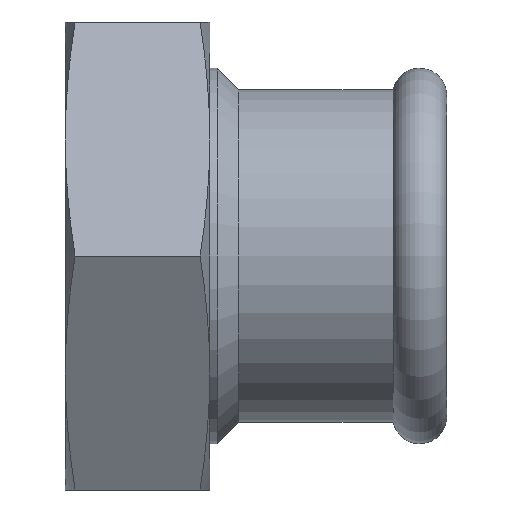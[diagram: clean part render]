
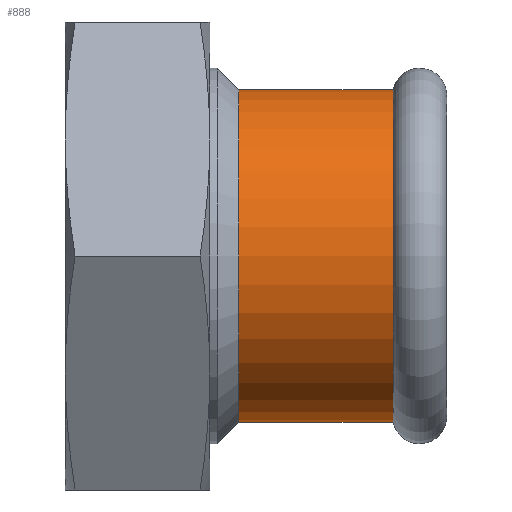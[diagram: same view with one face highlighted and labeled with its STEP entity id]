
A CAD part, front view. The second image highlights one B-rep face of the part: STEP entity #888.
In plain terms, the highlighted cylindrical face has radius 28.75 mm (diameter 57.5 mm), a full revolution.
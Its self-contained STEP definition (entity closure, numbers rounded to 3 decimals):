
#102=LINE('',#1657,#127);
#127=VECTOR('',#1324,28.75);
#139=CYLINDRICAL_SURFACE('',#1038,28.75);
#187=FACE_OUTER_BOUND('',#244,.T.);
#244=EDGE_LOOP('',(#799,#800,#801,#802,#803,#804,#805,#806));
#254=CIRCLE('',#916,28.75);
#255=CIRCLE('',#917,28.75);
#259=CIRCLE('',#921,28.75);
#309=CIRCLE('',#1005,28.75);
#310=CIRCLE('',#1006,28.75);
#311=CIRCLE('',#1007,28.75);
#340=VERTEX_POINT('',#1358);
#341=VERTEX_POINT('',#1359);
#342=VERTEX_POINT('',#1361);
#403=VERTEX_POINT('',#1597);
#404=VERTEX_POINT('',#1599);
#405=VERTEX_POINT('',#1601);
#431=EDGE_CURVE('',#340,#341,#254,.T.);
#432=EDGE_CURVE('',#341,#342,#255,.T.);
#436=EDGE_CURVE('',#342,#340,#259,.T.);
#526=EDGE_CURVE('',#404,#403,#309,.T.);
#527=EDGE_CURVE('',#405,#404,#310,.T.);
#528=EDGE_CURVE('',#403,#405,#311,.T.);
#554=EDGE_CURVE('',#341,#404,#102,.T.);
#799=ORIENTED_EDGE('',*,*,#431,.F.);
#800=ORIENTED_EDGE('',*,*,#436,.F.);
#801=ORIENTED_EDGE('',*,*,#432,.F.);
#802=ORIENTED_EDGE('',*,*,#554,.T.);
#803=ORIENTED_EDGE('',*,*,#526,.T.);
#804=ORIENTED_EDGE('',*,*,#528,.T.);
#805=ORIENTED_EDGE('',*,*,#527,.T.);
#806=ORIENTED_EDGE('',*,*,#554,.F.);
#888=ADVANCED_FACE('',(#187),#139,.T.);
#916=AXIS2_PLACEMENT_3D('',#1360,#1057,#1058);
#917=AXIS2_PLACEMENT_3D('',#1362,#1059,#1060);
#921=AXIS2_PLACEMENT_3D('',#1368,#1067,#1068);
#1005=AXIS2_PLACEMENT_3D('',#1600,#1251,#1252);
#1006=AXIS2_PLACEMENT_3D('',#1602,#1253,#1254);
#1007=AXIS2_PLACEMENT_3D('',#1603,#1255,#1256);
#1038=AXIS2_PLACEMENT_3D('',#1656,#1322,#1323);
#1057=DIRECTION('center_axis',(1.,0.,0.));
#1058=DIRECTION('ref_axis',(0.,1.,0.));
#1059=DIRECTION('center_axis',(1.,0.,0.));
#1060=DIRECTION('ref_axis',(0.,1.,0.));
#1067=DIRECTION('center_axis',(1.,0.,0.));
#1068=DIRECTION('ref_axis',(0.,1.,0.));
#1251=DIRECTION('center_axis',(1.,0.,0.));
#1252=DIRECTION('ref_axis',(0.,1.,0.));
#1253=DIRECTION('center_axis',(1.,0.,0.));
#1254=DIRECTION('ref_axis',(0.,1.,0.));
#1255=DIRECTION('center_axis',(1.,0.,0.));
#1256=DIRECTION('ref_axis',(0.,1.,0.));
#1322=DIRECTION('center_axis',(1.,0.,0.));
#1323=DIRECTION('ref_axis',(0.,1.,0.));
#1324=DIRECTION('',(-1.,0.,0.));
#1358=CARTESIAN_POINT('',(-9.26,28.75,0.));
#1359=CARTESIAN_POINT('',(-9.26,-28.75,0.));
#1360=CARTESIAN_POINT('Origin',(-9.26,0.,0.));
#1361=CARTESIAN_POINT('',(-9.26,0.,-28.75));
#1362=CARTESIAN_POINT('Origin',(-9.26,0.,0.));
#1368=CARTESIAN_POINT('Origin',(-9.26,0.,0.));
#1597=CARTESIAN_POINT('',(-36.,0.,-28.75));
#1599=CARTESIAN_POINT('',(-36.,-28.75,0.));
#1600=CARTESIAN_POINT('Origin',(-36.,0.,0.));
#1601=CARTESIAN_POINT('',(-36.,28.75,0.));
#1602=CARTESIAN_POINT('Origin',(-36.,0.,0.));
#1603=CARTESIAN_POINT('Origin',(-36.,0.,0.));
#1656=CARTESIAN_POINT('Origin',(-22.63,0.,0.));
#1657=CARTESIAN_POINT('',(-22.63,-28.75,0.));
